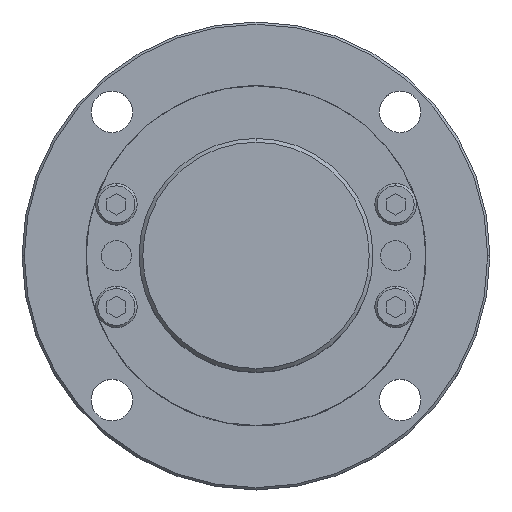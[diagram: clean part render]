
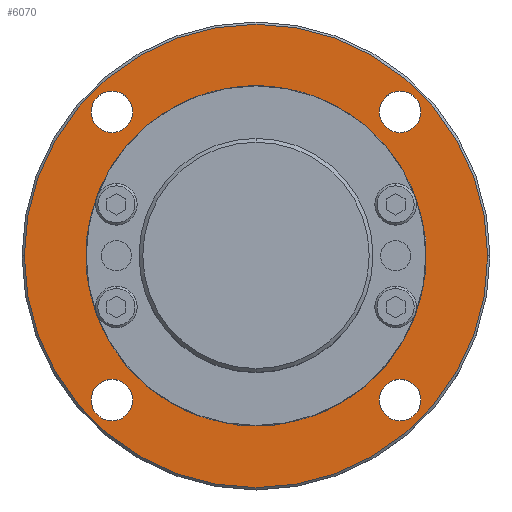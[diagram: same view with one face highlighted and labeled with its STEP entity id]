
A CAD part, top view. The second image highlights one B-rep face of the part: STEP entity #6070.
In plain terms, the highlighted planar face has unit normal (0, 0, 1).
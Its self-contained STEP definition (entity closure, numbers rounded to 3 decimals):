
#885=CARTESIAN_POINT('',(22.5,0.,-9.));
#886=VERTEX_POINT('',#885);
#994=CARTESIAN_POINT('',(-22.5,0.,-9.));
#995=VERTEX_POINT('',#994);
#1002=CARTESIAN_POINT('',(0.,0.,-9.));
#1003=DIRECTION('',(0.0,0.0,-1.0));
#1004=DIRECTION('',(-1.0,0.0,0.0));
#1005=AXIS2_PLACEMENT_3D('',#1002,#1003,#1004);
#1006=CIRCLE('',#1005,22.5);
#1007=EDGE_CURVE('',#886,#995,#1006,.T.);
#1505=CARTESIAN_POINT('',(16.342,-19.092,-9.));
#1506=VERTEX_POINT('',#1505);
#1515=CARTESIAN_POINT('',(21.842,-19.092,-9.));
#1516=VERTEX_POINT('',#1515);
#1517=CARTESIAN_POINT('',(19.092,-19.092,-9.));
#1518=DIRECTION('',(0.0,0.0,-1.0));
#1519=DIRECTION('',(-1.0,0.0,0.0));
#1520=AXIS2_PLACEMENT_3D('',#1517,#1518,#1519);
#1521=CIRCLE('',#1520,2.75);
#1522=EDGE_CURVE('',#1516,#1506,#1521,.T.);
#1547=CARTESIAN_POINT('',(-21.842,19.092,-9.));
#1548=VERTEX_POINT('',#1547);
#1557=CARTESIAN_POINT('',(-16.342,19.092,-9.));
#1558=VERTEX_POINT('',#1557);
#1559=CARTESIAN_POINT('',(-19.092,19.092,-9.));
#1560=DIRECTION('',(0.0,0.0,-1.0));
#1561=DIRECTION('',(-1.0,0.0,0.0));
#1562=AXIS2_PLACEMENT_3D('',#1559,#1560,#1561);
#1563=CIRCLE('',#1562,2.75);
#1564=EDGE_CURVE('',#1558,#1548,#1563,.T.);
#1589=CARTESIAN_POINT('',(16.342,19.092,-9.));
#1590=VERTEX_POINT('',#1589);
#1599=CARTESIAN_POINT('',(21.842,19.092,-9.));
#1600=VERTEX_POINT('',#1599);
#1601=CARTESIAN_POINT('',(19.092,19.092,-9.));
#1602=DIRECTION('',(0.0,0.0,-1.0));
#1603=DIRECTION('',(-1.0,0.0,0.0));
#1604=AXIS2_PLACEMENT_3D('',#1601,#1602,#1603);
#1605=CIRCLE('',#1604,2.75);
#1606=EDGE_CURVE('',#1600,#1590,#1605,.T.);
#1631=CARTESIAN_POINT('',(-21.842,-19.092,-9.));
#1632=VERTEX_POINT('',#1631);
#1641=CARTESIAN_POINT('',(-16.342,-19.092,-9.));
#1642=VERTEX_POINT('',#1641);
#1643=CARTESIAN_POINT('',(-19.092,-19.092,-9.));
#1644=DIRECTION('',(0.0,0.0,-1.0));
#1645=DIRECTION('',(-1.0,0.0,0.0));
#1646=AXIS2_PLACEMENT_3D('',#1643,#1644,#1645);
#1647=CIRCLE('',#1646,2.75);
#1648=EDGE_CURVE('',#1642,#1632,#1647,.T.);
#1957=CARTESIAN_POINT('',(30.7,0.,-9.));
#1958=VERTEX_POINT('',#1957);
#1967=CARTESIAN_POINT('',(-30.7,0.,-9.));
#1968=VERTEX_POINT('',#1967);
#1969=CARTESIAN_POINT('',(0.,0.,-9.));
#1970=DIRECTION('',(0.0,0.0,-1.0));
#1971=DIRECTION('',(1.0,0.0,0.0));
#1972=AXIS2_PLACEMENT_3D('',#1969,#1970,#1971);
#1973=CIRCLE('',#1972,30.7);
#1974=EDGE_CURVE('',#1958,#1968,#1973,.T.);
#6001=CARTESIAN_POINT('',(0.,0.,-9.));
#6002=DIRECTION('',(0.0,0.0,-1.0));
#6003=DIRECTION('',(1.0,0.0,0.0));
#6004=AXIS2_PLACEMENT_3D('',#6001,#6002,#6003);
#6005=CIRCLE('',#6004,30.7);
#6006=EDGE_CURVE('',#1968,#1958,#6005,.T.);
#6011=CARTESIAN_POINT('',(-2.818,0.,-9.));
#6012=DIRECTION('',(0.0,0.0,1.0));
#6013=DIRECTION('',(-1.0,0.0,0.0));
#6014=AXIS2_PLACEMENT_3D('',#6011,#6012,#6013);
#6015=PLANE('',#6014);
#6016=ORIENTED_EDGE('',*,*,#6006,.F.);
#6017=ORIENTED_EDGE('',*,*,#1974,.F.);
#6018=EDGE_LOOP('',(#6016,#6017));
#6019=FACE_OUTER_BOUND('',#6018,.T.);
#6020=ORIENTED_EDGE('',*,*,#1007,.T.);
#6021=CARTESIAN_POINT('',(0.,0.,-9.));
#6022=DIRECTION('',(0.0,0.0,-1.0));
#6023=DIRECTION('',(-1.0,0.0,0.0));
#6024=AXIS2_PLACEMENT_3D('',#6021,#6022,#6023);
#6025=CIRCLE('',#6024,22.5);
#6026=EDGE_CURVE('',#995,#886,#6025,.T.);
#6027=ORIENTED_EDGE('',*,*,#6026,.T.);
#6028=EDGE_LOOP('',(#6020,#6027));
#6029=FACE_BOUND('',#6028,.T.);
#6030=ORIENTED_EDGE('',*,*,#1522,.T.);
#6031=CARTESIAN_POINT('',(19.092,-19.092,-9.));
#6032=DIRECTION('',(0.0,0.0,-1.0));
#6033=DIRECTION('',(-1.0,0.0,0.0));
#6034=AXIS2_PLACEMENT_3D('',#6031,#6032,#6033);
#6035=CIRCLE('',#6034,2.75);
#6036=EDGE_CURVE('',#1506,#1516,#6035,.T.);
#6037=ORIENTED_EDGE('',*,*,#6036,.T.);
#6038=EDGE_LOOP('',(#6030,#6037));
#6039=FACE_BOUND('',#6038,.T.);
#6040=ORIENTED_EDGE('',*,*,#1564,.T.);
#6041=CARTESIAN_POINT('',(-19.092,19.092,-9.));
#6042=DIRECTION('',(0.0,0.0,-1.0));
#6043=DIRECTION('',(-1.0,0.0,0.0));
#6044=AXIS2_PLACEMENT_3D('',#6041,#6042,#6043);
#6045=CIRCLE('',#6044,2.75);
#6046=EDGE_CURVE('',#1548,#1558,#6045,.T.);
#6047=ORIENTED_EDGE('',*,*,#6046,.T.);
#6048=EDGE_LOOP('',(#6040,#6047));
#6049=FACE_BOUND('',#6048,.T.);
#6050=ORIENTED_EDGE('',*,*,#1606,.T.);
#6051=CARTESIAN_POINT('',(19.092,19.092,-9.));
#6052=DIRECTION('',(0.0,0.0,-1.0));
#6053=DIRECTION('',(-1.0,0.0,0.0));
#6054=AXIS2_PLACEMENT_3D('',#6051,#6052,#6053);
#6055=CIRCLE('',#6054,2.75);
#6056=EDGE_CURVE('',#1590,#1600,#6055,.T.);
#6057=ORIENTED_EDGE('',*,*,#6056,.T.);
#6058=EDGE_LOOP('',(#6050,#6057));
#6059=FACE_BOUND('',#6058,.T.);
#6060=ORIENTED_EDGE('',*,*,#1648,.T.);
#6061=CARTESIAN_POINT('',(-19.092,-19.092,-9.));
#6062=DIRECTION('',(0.0,0.0,-1.0));
#6063=DIRECTION('',(-1.0,0.0,0.0));
#6064=AXIS2_PLACEMENT_3D('',#6061,#6062,#6063);
#6065=CIRCLE('',#6064,2.75);
#6066=EDGE_CURVE('',#1632,#1642,#6065,.T.);
#6067=ORIENTED_EDGE('',*,*,#6066,.T.);
#6068=EDGE_LOOP('',(#6060,#6067));
#6069=FACE_BOUND('',#6068,.T.);
#6070=ADVANCED_FACE('',(#6019,#6029,#6039,#6049,#6059,#6069),#6015,.T.);
